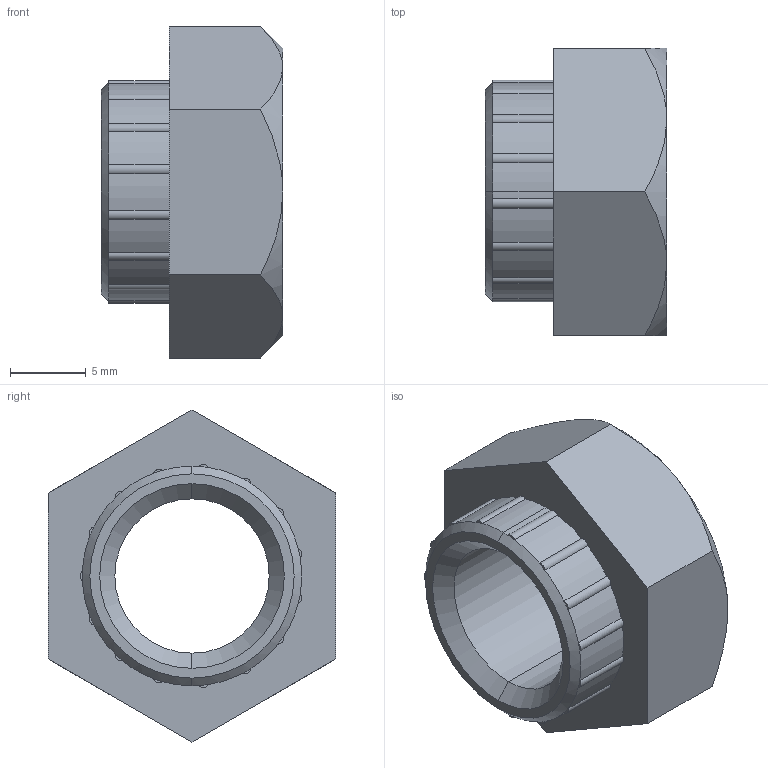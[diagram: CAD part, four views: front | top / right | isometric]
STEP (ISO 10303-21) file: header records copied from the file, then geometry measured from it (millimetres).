
FILE_DESCRIPTION (( 'STEP AP214' ), '1' );
FILE_NAME ('4.NR.01.04.STEP', '2016-10-11T10:52:47', ( '' ), ( '' ), 'SwSTEP 2.0', 'SolidWorks 2015', '' );
FILE_SCHEMA (( 'AUTOMOTIVE_DESIGN' ));
Length unit declared in the file: millimetre
Products named in the file (1): 4.NR.01.04
Bounding box: 12 x 19 x 21.94 mm (x, y, z)
Volume: 2058.7 mm3; surface area: 1481.2 mm2
Topology: 1 solids, 1 shells, 74 faces, 171 edges, 100 vertices
Faces by surface type: cylinder 37, plane 24, cone 13
Entity records: 2217 total; most frequent: CARTESIAN_POINT 425, DIRECTION 412, ORIENTED_EDGE 342, AXIS2_PLACEMENT_3D 178, EDGE_CURVE 171, CIRCLE 103, VERTEX_POINT 100, EDGE_LOOP 77
